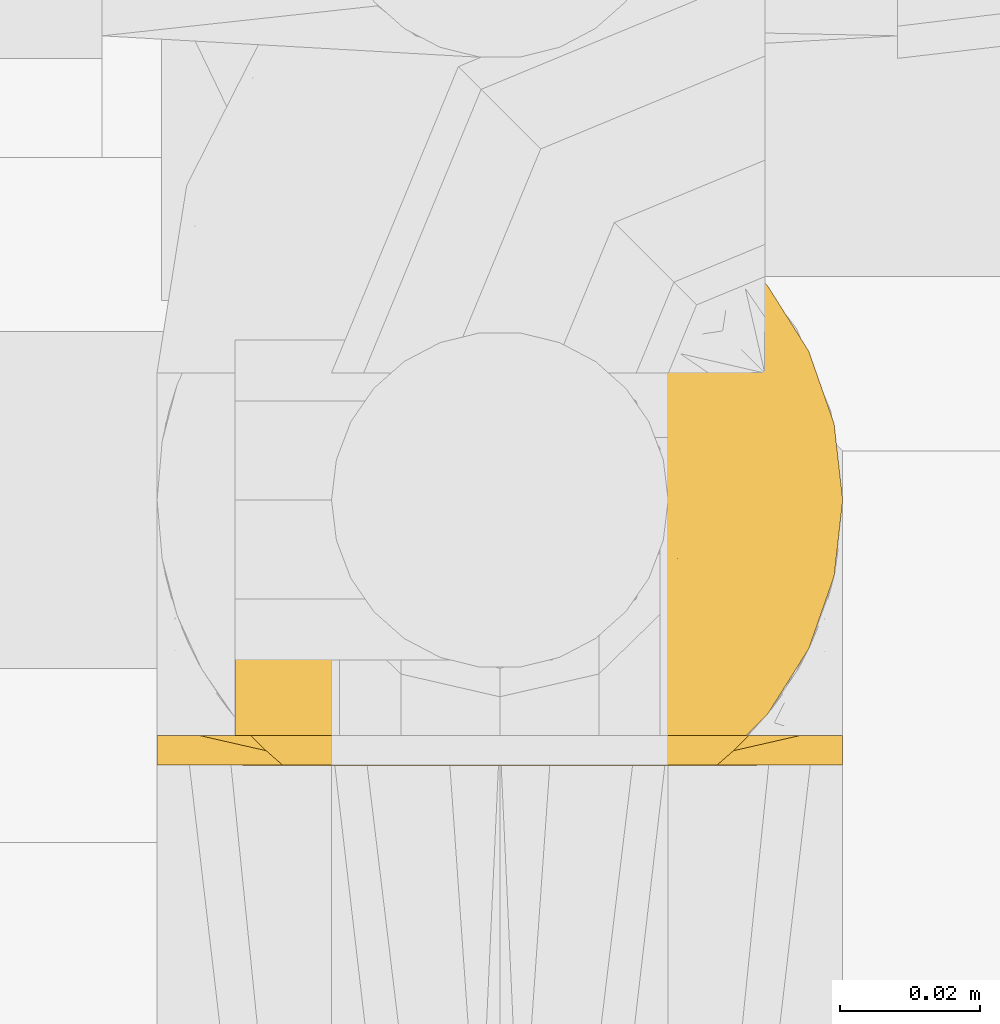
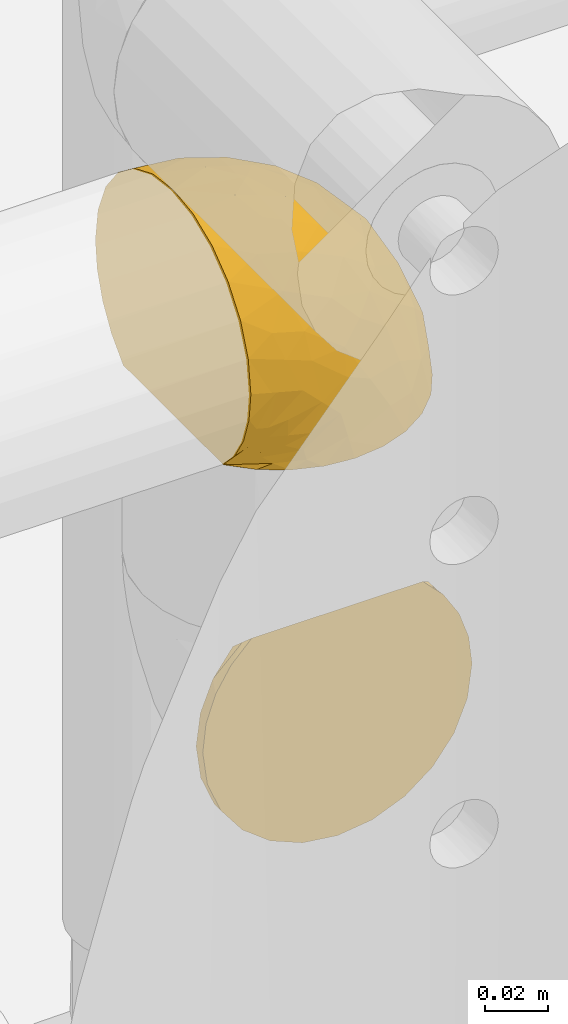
# One storey, part 36 of 94: 2 coverings.
"""IFC2X3 building model written with IfcOpenShell, lengths in millimetres."""

from ifc_helpers import new_model, entity, si_unit, converted_unit, derived_unit, direction, frame, origin, place, context, subcontext, project, spatial, faceted_brep, material, element, save


model = new_model("IFC2X3")

# Units and contexts
model_context = context("Model", 3, precision=0.01, world=origin(), true_north=direction((6.123031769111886e-17, 1.0)))
body_context = subcontext(model_context, "Body", "Model", "MODEL_VIEW")
ifc_project = project(units=[si_unit("LENGTHUNIT", "METRE", prefix="MILLI"), si_unit("AREAUNIT", "SQUARE_METRE"), si_unit("VOLUMEUNIT", "CUBIC_METRE"), converted_unit("PLANEANGLEUNIT", "DEGREE", entity("IfcRatioMeasure", 0.017453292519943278), si_unit("PLANEANGLEUNIT", "RADIAN"), dimensions=[0, 0, 0, 0, 0, 0, 0]), si_unit("MASSUNIT", "GRAM", prefix="KILO"), derived_unit("MASSDENSITYUNIT", [(si_unit("MASSUNIT", "GRAM", prefix="KILO"), 1), (si_unit("LENGTHUNIT", "METRE"), -3)]), derived_unit("IONCONCENTRATIONUNIT", [(si_unit("MASSUNIT", "GRAM", prefix="KILO"), 1), (si_unit("LENGTHUNIT", "METRE"), -3)]), derived_unit("MOMENTOFINERTIAUNIT", [(si_unit("LENGTHUNIT", "METRE"), 4)]), si_unit("TIMEUNIT", "SECOND"), si_unit("FREQUENCYUNIT", "HERTZ"), si_unit("THERMODYNAMICTEMPERATUREUNIT", "DEGREE_CELSIUS"), derived_unit("THERMALTRANSMITTANCEUNIT", [(si_unit("MASSUNIT", "GRAM", prefix="KILO"), 1), (si_unit("THERMODYNAMICTEMPERATUREUNIT", "KELVIN"), -1), (si_unit("TIMEUNIT", "SECOND"), -3)]), derived_unit("THERMALCONDUCTANCEUNIT", [(si_unit("MASSUNIT", "GRAM", prefix="KILO"), 1), (si_unit("THERMODYNAMICTEMPERATUREUNIT", "KELVIN"), -1), (si_unit("TIMEUNIT", "SECOND"), -3), (si_unit("LENGTHUNIT", "METRE"), 1)]), derived_unit("VOLUMETRICFLOWRATEUNIT", [(si_unit("LENGTHUNIT", "METRE"), 3), (si_unit("TIMEUNIT", "SECOND"), -1)]), derived_unit("MASSFLOWRATEUNIT", [(si_unit("MASSUNIT", "GRAM", prefix="KILO"), 1), (si_unit("TIMEUNIT", "SECOND"), -1)]), derived_unit("ROTATIONALFREQUENCYUNIT", [(si_unit("TIMEUNIT", "SECOND"), -1)]), si_unit("ELECTRICCURRENTUNIT", "AMPERE"), si_unit("ELECTRICVOLTAGEUNIT", "VOLT"), si_unit("POWERUNIT", "WATT"), si_unit("FORCEUNIT", "NEWTON", prefix="KILO"), si_unit("ILLUMINANCEUNIT", "LUX"), si_unit("LUMINOUSFLUXUNIT", "LUMEN"), si_unit("LUMINOUSINTENSITYUNIT", "CANDELA"), derived_unit("USERDEFINED", [(si_unit("MASSUNIT", "GRAM", prefix="KILO"), -1), (si_unit("LENGTHUNIT", "METRE"), -2), (si_unit("TIMEUNIT", "SECOND"), 3), (si_unit("LUMINOUSFLUXUNIT", "LUMEN"), 1)]), derived_unit("USERDEFINED", [(si_unit("MASSUNIT", "GRAM", prefix="KILO"), 1), (si_unit("TIMEUNIT", "SECOND"), -3), (si_unit("LENGTHUNIT", "METRE"), 3), (si_unit("ELECTRICCURRENTUNIT", "AMPERE"), -2)]), derived_unit("SOUNDPOWERUNIT", [(si_unit("MASSUNIT", "GRAM", prefix="KILO"), 1), (si_unit("TIMEUNIT", "SECOND"), -3), (si_unit("LENGTHUNIT", "METRE"), 2)]), derived_unit("SOUNDPRESSUREUNIT", [(si_unit("MASSUNIT", "GRAM", prefix="KILO"), 1), (si_unit("LENGTHUNIT", "METRE"), -1), (si_unit("TIMEUNIT", "SECOND"), -2)]), derived_unit("LINEARVELOCITYUNIT", [(si_unit("LENGTHUNIT", "METRE"), 1), (si_unit("TIMEUNIT", "SECOND"), -1)]), si_unit("PRESSUREUNIT", "PASCAL"), derived_unit("USERDEFINED", [(si_unit("MASSUNIT", "GRAM", prefix="KILO"), 1), (si_unit("LENGTHUNIT", "METRE"), -2), (si_unit("TIMEUNIT", "SECOND"), -2)]), derived_unit("LINEARFORCEUNIT", [(si_unit("MASSUNIT", "GRAM", prefix="KILO"), 1), (si_unit("TIMEUNIT", "SECOND"), -2)]), derived_unit("PLANARFORCEUNIT", [(si_unit("MASSUNIT", "GRAM", prefix="KILO"), 1), (si_unit("LENGTHUNIT", "METRE"), -1), (si_unit("TIMEUNIT", "SECOND"), -2)]), derived_unit("SPECIFICHEATCAPACITYUNIT", [(si_unit("THERMODYNAMICTEMPERATUREUNIT", "KELVIN"), -1), (si_unit("LENGTHUNIT", "METRE"), 2), (si_unit("TIMEUNIT", "SECOND"), -2)]), derived_unit("HEATINGVALUEUNIT", [(si_unit("LENGTHUNIT", "METRE"), 2), (si_unit("TIMEUNIT", "SECOND"), -2)]), derived_unit("VAPORPERMEABILITYUNIT", [(si_unit("LENGTHUNIT", "METRE"), -1), (si_unit("TIMEUNIT", "SECOND"), 1)]), derived_unit("DYNAMICVISCOSITYUNIT", [(si_unit("MASSUNIT", "GRAM", prefix="KILO"), 1), (si_unit("TIMEUNIT", "SECOND"), -1), (si_unit("LENGTHUNIT", "METRE"), -1)]), derived_unit("THERMALEXPANSIONCOEFFICIENTUNIT", [(si_unit("THERMODYNAMICTEMPERATUREUNIT", "KELVIN"), -1)]), derived_unit("MODULUSOFELASTICITYUNIT", [(si_unit("MASSUNIT", "GRAM", prefix="KILO"), 1), (si_unit("LENGTHUNIT", "METRE"), -1), (si_unit("TIMEUNIT", "SECOND"), -2)]), derived_unit("ISOTHERMALMOISTURECAPACITYUNIT", [(si_unit("LENGTHUNIT", "METRE"), 3), (si_unit("MASSUNIT", "GRAM", prefix="KILO"), -1)]), derived_unit("MOISTUREDIFFUSIVITYUNIT", [(si_unit("TIMEUNIT", "SECOND"), -1), (si_unit("LENGTHUNIT", "METRE"), 2)])], contexts=[model_context])

# Site, building, storey
site_placement = place(None, origin())
site = spatial("IfcSite", under=ifc_project, at=site_placement, Name="Default", CompositionType="ELEMENT")
building_placement = place(site_placement, origin())
building = spatial("IfcBuilding", under=site, at=building_placement, CompositionType="ELEMENT")
storey_placement = place(building_placement, origin())
storey = spatial("IfcBuildingStorey", under=building, at=storey_placement, Name="Niveau 0", CompositionType="ELEMENT", Elevation=0.0)

# Coverings
ifc_material = material(Name="Isolation - Laine minérale")
covering_1_placement = place(storey_placement, frame((-6323.829732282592, 9224.732406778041, 549.745272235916)))
element("IfcCovering", 1, at=covering_1_placement, inside=storey, material=ifc_material, Name="Isolation des canalisations:Laine minérale", ObjectType="Isolation des canalisations:Laine minérale", PredefinedType="INSULATION", context=body_context, shape_type="Brep", body=[
    faceted_brep([(1.908891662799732, 19.19437336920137, -88.74527223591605), (1.908891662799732, 21.63864226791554, -88.74527223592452), (1.908891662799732, 23.415694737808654, -88.74527223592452), (1.908891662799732, 25.192747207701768, -88.74527223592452), (1.908891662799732, 26.692340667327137, -88.74527223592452), (1.908891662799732, 28.191934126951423, -88.74527223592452), (1.908891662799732, 31.191121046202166, -88.74527223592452), (1.908891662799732, 34.19030796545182, -88.74527223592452), (1.908891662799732, 37.18949488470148, -88.74527223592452), (1.908891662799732, 40.18868180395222, -88.74527223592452), (1.908891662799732, 41.68827526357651, -88.74527223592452), (1.908891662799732, 43.18786872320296, -88.74527223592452), (1.908891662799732, 45.63213762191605, -88.74527223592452), (1.908891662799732, 48.07640652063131, -88.74527223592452), (1.908891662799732, 50.5206754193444, -88.74527223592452), (1.908891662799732, 52.96494431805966, -88.74527223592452), (1.908891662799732, 55.40921321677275, -88.74527223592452), (1.908891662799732, 57.853482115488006, -88.74527223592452), (1.908891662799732, 60.2977510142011, -88.74527223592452), (1.908891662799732, 62.742019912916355, -88.74527223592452), (1.908891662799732, 65.18628881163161, -88.74527223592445), (1.908891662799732, 67.6305577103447, -88.74527223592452), (1.9088916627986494, 70.07482660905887, -88.74527223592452), (1.908891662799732, 72.51909550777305, -88.74527223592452), (1.908891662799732, 74.96336440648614, -88.74527223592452), (1.908891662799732, 77.4076333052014, -88.74527223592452), (1.9088916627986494, 79.85190220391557, -88.74527223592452), (1.908891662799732, 82.29617110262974, -88.74527223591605), (9.648191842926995, 89.71827412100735, -88.74527223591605), (18.809406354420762, 95.28368576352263, -88.74527223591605), (28.956643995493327, 98.73008326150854, -88.74527223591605), (39.59527223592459, 99.89527223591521, -88.74527223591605), (50.53764083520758, 98.66173151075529, -88.74527223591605), (60.92840990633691, 95.02415814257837, -88.74527223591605), (70.2472924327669, 89.16631019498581, -88.74527223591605), (78.02799613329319, 81.38263886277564, -88.74527223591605), (83.88131648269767, 72.06354573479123, -88.74527223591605), (87.51440414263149, 61.67593083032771, -88.74527223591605), (88.74527223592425, 50.74527223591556, -88.74527223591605), (87.51173151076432, 39.80290363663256, -88.74527223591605), (83.8741581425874, 29.41213456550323, -88.74527223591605), (78.01631019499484, 20.093252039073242, -88.74527223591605), (70.23263886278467, 12.31254833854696, -88.74527223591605), (60.913545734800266, 6.459227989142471, -88.74527223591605), (50.52593083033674, 2.826140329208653, -88.74527223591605), (39.59527223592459, 1.5952722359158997, -88.74527223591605), (28.93618624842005, 2.765001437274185, -88.74527223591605), (18.787971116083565, 6.216868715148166, -88.74527223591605), (9.631578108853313, 11.785042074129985, -88.74527223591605), (1.5952722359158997, 19.19437336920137, -88.43165280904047), (1.5952722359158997, 11.777056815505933, -80.69858068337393), (1.5952722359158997, 6.211862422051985, -71.54185633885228), (1.5952722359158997, 2.7632985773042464, -61.39669016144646), (1.5952722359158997, 1.5952722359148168, -50.74527223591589), (1.5952722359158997, 3.270017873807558, -38.024316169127), (1.5952722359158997, 8.18012363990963, -26.17027223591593), (1.5952722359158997, 15.990973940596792, -15.99097394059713), (1.5952722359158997, 26.17027223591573, -8.180123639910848), (1.5952722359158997, 38.02431616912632, -3.270017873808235), (1.5952722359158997, 50.74527223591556, -1.5952722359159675), (1.5952722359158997, 63.466228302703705, -3.270017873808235), (1.5952722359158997, 75.32027223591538, -8.180123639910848), (1.5952722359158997, 85.49957053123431, -15.99097394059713), (1.5952722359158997, 93.3104208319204, -26.17027223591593), (1.5952722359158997, 98.22052659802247, -38.024316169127), (1.5952722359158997, 99.89527223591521, -50.74527223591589), (1.5952722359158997, 98.72724589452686, -61.39669016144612), (1.5952722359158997, 95.27868204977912, -71.54185633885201), (1.5952722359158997, 89.71348765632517, -80.69858068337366), (1.5952722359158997, 82.29617110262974, -88.43165280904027), (1.5952722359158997, 79.85190220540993, -88.43165280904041), (1.5952722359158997, 78.3523087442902, -88.43165280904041), (1.5952722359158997, 76.3803775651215, -88.43165280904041), (1.5952722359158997, 74.40844638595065, -88.43165280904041), (1.5952722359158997, 72.43651520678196, -88.43165280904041), (1.5952722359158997, 70.46458402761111, -88.43165280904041), (1.5952722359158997, 68.49265284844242, -88.43165280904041), (1.5952722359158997, 66.52072166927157, -88.43165280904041), (1.5952722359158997, 64.54879049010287, -88.43165280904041), (1.5952722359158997, 62.57685931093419, -88.43165280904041), (1.5952722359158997, 60.60492813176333, -88.43165280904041), (1.5952722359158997, 58.632996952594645, -88.43165280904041), (1.5952722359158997, 56.661065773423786, -88.43165280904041), (1.5952722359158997, 54.6891345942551, -88.43165280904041), (1.5952722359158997, 52.71720341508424, -88.43165280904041), (1.5952722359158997, 50.74527223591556, -88.43165280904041), (1.5952722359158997, 48.773341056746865, -88.43165280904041), (1.5952722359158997, 46.80140987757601, -88.43165280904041), (1.5952722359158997, 44.82947869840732, -88.43165280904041), (1.5952722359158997, 42.85754751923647, -88.43165280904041), (1.5952722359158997, 40.88561634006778, -88.43165280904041), (1.5952722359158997, 38.913685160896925, -88.43165280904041), (1.5952722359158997, 36.94175398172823, -88.43165280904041), (1.5952722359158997, 34.96982280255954, -88.43165280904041), (1.5952722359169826, 31.97063588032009, -88.43165280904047), (1.5952722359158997, 28.971448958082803, -88.43165280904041), (1.5952722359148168, 26.5271800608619, -88.43165280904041), (1.5952722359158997, 24.082911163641, -88.43165280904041), (1.5952722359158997, 21.638642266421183, -88.43165280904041), (1.809643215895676, 53.75333970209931, -88.51635690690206), (1.8184361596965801, 51.832765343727, -88.52492022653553), (1.8193226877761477, 61.47290163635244, -88.52582169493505), (1.8127644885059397, 63.56282540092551, -88.51932032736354), (1.7996191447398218, 48.00102702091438, -88.50736577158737), (1.8054799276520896, 77.24999397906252, -88.51252801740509), (1.8492387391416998, 80.69913834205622, -88.56126636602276), (1.8224415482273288, 42.43807145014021, -88.52905186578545), (1.817034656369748, 22.860776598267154, -88.52350980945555), (1.8150629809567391, 24.70021643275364, -88.5215555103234), (1.824011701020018, 71.3700895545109, -88.53071361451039), (1.8138012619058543, 73.40383885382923, -88.52032288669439), (1.8358544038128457, 44.410002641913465, -88.54408236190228), (1.810897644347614, 37.92771907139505, -88.51753811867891), (1.8073683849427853, 39.81308540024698, -88.51424763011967), (1.824691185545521, 35.95578792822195, -88.53144031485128), (1.8114022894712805, 49.75930651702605, -88.51801699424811), (1.8146264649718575, 21.02757498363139, -88.52112749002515), (1.8038954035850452, 55.67510065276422, -88.51110665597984), (1.8030656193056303, 67.50668767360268, -88.51037001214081), (1.8078125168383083, 65.61454699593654, -88.51465616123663), (1.8062814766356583, 34.10458092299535, -88.51325446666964), (1.8068444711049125, 57.55217518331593, -88.51376773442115), (1.8170346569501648, 79.10210557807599, -88.52350981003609), (1.8056127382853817, 75.39441218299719, -88.51264803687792), (1.8170346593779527, 82.29617110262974, -88.52350981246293), (1.845664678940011, 82.29617110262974, -88.59262879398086), (1.8742946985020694, 82.29617110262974, -88.66174777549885), (1.8170346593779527, 19.19437336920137, -88.52350981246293), (1.7479156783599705, 19.19437336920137, -88.49487979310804), (1.6787966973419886, 19.19437336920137, -88.46624977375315), (1.8305380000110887, 32.212157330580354, -88.53789054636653), (1.8101196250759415, 69.43559223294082, -88.51680397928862), (1.8180768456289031, 46.24828797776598, -88.52455691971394), (1.8158402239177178, 59.49061335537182, -88.52232177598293), (1.8347511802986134, 29.41925201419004, -88.54277043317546), (1.8131030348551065, 27.44213716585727, -88.51964668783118), (1.6787966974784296, 82.29617110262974, -88.46624977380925), (1.7479156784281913, 82.29617110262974, -88.494879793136), (1.8742946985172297, 19.19437336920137, -88.66174777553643), (1.8456646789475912, 19.19437336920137, -88.59262879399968), (5.119742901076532, 4.210283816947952, -66.8453249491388), (4.404433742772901, 8.744179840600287, -76.59278810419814), (9.262466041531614, 4.210283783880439, -67.93076460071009), (7.207652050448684, 9.955583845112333, -79.77802179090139), (11.095272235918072, 1.5952722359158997, -53.290789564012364), (9.051642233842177, 1.5952722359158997, -52.74320055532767), (34.50423757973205, 1.5952722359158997, -69.74527223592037), (23.94501445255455, 2.93549782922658, -74.32039473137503), (22.40014043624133, 4.213452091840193, -81.07886680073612), (20.595272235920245, 1.5952722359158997, -55.83630689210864), (9.666760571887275, 9.405305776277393, -80.67264697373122), (10.551623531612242, 9.963487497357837, -83.13763204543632), (16.01945088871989, 2.9356418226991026, -66.39579772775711), (23.485838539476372, 4.213452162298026, -85.22115378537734), (13.737180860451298, 8.750654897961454, -85.93765126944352), (10.691425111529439, 5.690627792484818, -72.79903813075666), (37.59734395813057, 1.5952722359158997, -81.28890239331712), (37.049754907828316, 1.5952722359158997, -79.24527223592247), (16.728859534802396, 4.482619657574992, -73.61168502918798), (27.549754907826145, 1.5952722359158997, -62.79078956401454), (16.460659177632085, 5.766057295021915, -78.2689853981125), (15.011407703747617, 2.6117250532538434, -42.71659351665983), (24.42980261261, 2.657531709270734, -46.339103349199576), (36.49293031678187, 11.131578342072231, -31.440845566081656), (31.204032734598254, 20.82464790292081, -17.672829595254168), (19.174422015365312, 11.7519547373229, -23.1389879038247), (23.335091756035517, 5.336592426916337, -36.260702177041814), (11.460031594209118, 5.336592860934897, -32.79943692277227), (52.82075697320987, 50.74527223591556, -18.239441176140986), (28.52610329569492, 50.74527223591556, -5.860696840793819), (36.46534309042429, 40.339739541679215, -10.09253095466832), (64.55560047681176, 9.124243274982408, -76.48910815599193), (54.096361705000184, 4.351045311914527, -75.17525932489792), (60.7776621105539, 32.64695426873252, -29.56288601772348), (59.569862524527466, 23.768909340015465, -34.954708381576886), (75.0483217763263, 35.61531809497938, -46.443169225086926), (19.026686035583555, 41.696133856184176, -4.214063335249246), (43.09951705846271, 30.50981773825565, -17.108860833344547), (46.8366514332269, 21.748430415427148, -25.59315874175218), (15.050691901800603, 20.824647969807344, -12.936813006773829), (23.237814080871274, 31.93638275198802, -8.19337466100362), (53.24134352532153, 15.984346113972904, -37.51142897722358), (45.825367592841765, 9.509703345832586, -41.46157905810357), (56.63576814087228, 11.405769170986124, -49.733323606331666), (46.288849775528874, 3.7235321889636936, -61.570591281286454), (60.29646320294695, 9.124242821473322, -62.89209880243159), (72.02820629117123, 15.984347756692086, -70.54017915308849), (84.47984763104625, 50.74527223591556, -61.81444117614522), (83.29913826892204, 34.50535109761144, -67.62492254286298), (64.72607481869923, 18.535934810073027, -48.02305876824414), (74.45362859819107, 24.588194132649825, -56.65671676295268), (79.74013519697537, 24.588193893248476, -73.5335710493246), (51.83676030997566, 39.07585882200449, -19.26196392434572), (64.99536385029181, 42.346184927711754, -30.008052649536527), (37.17704034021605, 2.5632520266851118, -56.967223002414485), (72.10110329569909, 50.74527223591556, -37.51978749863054), (37.64584570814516, 4.722449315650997, -46.87511479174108), (32.164652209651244, 69.5541610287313, -11.140369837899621), (18.639631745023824, 59.5851078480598, -4.095656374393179), (35.766211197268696, 59.865425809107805, -9.50247429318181), (47.842493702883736, 66.13789702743, -17.812384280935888), (15.27818958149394, 69.55416221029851, -6.4665656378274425), (65.81540325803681, 85.49332197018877, -54.54188370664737), (64.55420181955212, 78.98858976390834, -42.32008170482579), (74.46231326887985, 76.88743080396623, -56.65317707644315), (53.25075234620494, 85.49294527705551, -37.502095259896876), (54.62718238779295, 78.28666517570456, -30.584563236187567), (54.10903567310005, 97.13479117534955, -75.17052823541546), (19.802502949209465, 98.95303587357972, -44.78912737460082), (20.595272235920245, 99.89527223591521, -55.83630689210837), (11.095272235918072, 99.89527223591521, -53.290789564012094), (83.30424504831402, 66.97173870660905, -67.62586672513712), (21.09968330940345, 80.66589652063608, -14.26340359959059), (60.31003237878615, 92.35692696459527, -62.88589281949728), (64.57029925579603, 92.35692651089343, -76.486535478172), (13.465140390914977, 89.73858944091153, -21.869885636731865), (16.335810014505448, 96.15395178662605, -33.88211097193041), (41.93007422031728, 79.62483877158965, -22.251999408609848), (27.71501397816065, 89.7385902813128, -26.04782376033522), (59.119767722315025, 59.508159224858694, -24.3292880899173), (60.78019907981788, 68.8345286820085, -29.560349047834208), (10.513874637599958, 99.01263503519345, -42.321432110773), (79.74926997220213, 76.887431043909, -73.53143463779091), (75.05329716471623, 65.85652255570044, -46.439690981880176), (72.04103767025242, 85.49294363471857, -70.53686254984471), (46.290673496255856, 97.76388503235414, -61.55381762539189), (34.50423757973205, 99.89527223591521, -69.74527223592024), (36.10518198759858, 98.78930951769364, -54.85547791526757), (27.549754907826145, 99.89527223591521, -62.79078956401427), (37.59734395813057, 99.89527223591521, -81.28890239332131), (37.049754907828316, 99.89527223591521, -79.24527223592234), (41.92842909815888, 91.50386042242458, -37.177632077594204), (26.19749743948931, 96.42683125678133, -38.287459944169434), (50.23414181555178, 93.1499194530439, -48.93950707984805), (27.449810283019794, 99.08337182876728, -49.6193224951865), (42.66776613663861, 86.09107557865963, -29.42376899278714), (34.950986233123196, 96.67816905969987, -44.39993285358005), (9.262466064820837, 97.28026029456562, -67.93076584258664), (12.074879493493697, 95.72662397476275, -73.8762902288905), (16.019815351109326, 98.5546584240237, -66.3972519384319), (5.119743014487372, 97.28026045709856, -66.8453255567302), (4.404433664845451, 92.74636428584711, -76.59278866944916), (7.207972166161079, 91.53641117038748, -79.77567656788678), (7.658564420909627, 90.1127562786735, -82.68391989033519), (16.72348065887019, 97.0051951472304, -73.61706313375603), (10.58277305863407, 91.54965419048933, -83.12402653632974), (22.4220908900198, 97.2842704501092, -81.07735934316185), (23.507196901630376, 97.28427059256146, -85.22095110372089), (13.756054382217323, 92.7514749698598, -85.93466595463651), (23.942836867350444, 98.55441347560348, -74.32191718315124), (17.55671847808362, 95.80583125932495, -79.64839749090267)], [[[0, 1, 2, 3, 4, 5, 6, 7, 8, 9, 10, 11, 12, 13, 14, 15, 16, 17, 18, 19, 20, 21, 22, 23, 24, 25, 26, 27, 28, 29, 30, 31, 32, 33, 34, 35, 36, 37, 38, 39, 40, 41, 42, 43, 44, 45, 46, 47, 48]], [[49, 50, 51, 52, 53, 54, 55, 56, 57, 58, 59, 60, 61, 62, 63, 64, 65, 66, 67, 68, 69, 70, 71, 72, 73, 74, 75, 76, 77, 78, 79, 80, 81, 82, 83, 84, 85, 86, 87, 88, 89, 90, 91, 92, 93, 94, 95, 96, 97, 98]], [[99, 100, 84]], [[101, 102, 19]], [[86, 103, 87]], [[72, 71, 104]], [[105, 70, 69]], [[11, 10, 106]], [[2, 107, 108]], [[109, 74, 110]], [[12, 11, 111]], [[9, 112, 113]], [[108, 97, 96]], [[114, 93, 92]], [[103, 86, 115]], [[97, 107, 98]], [[107, 1, 116]], [[79, 102, 101]], [[99, 117, 16]], [[77, 118, 119]], [[120, 93, 114]], [[112, 91, 113]], [[89, 111, 106]], [[24, 23, 110]], [[107, 97, 108]], [[16, 117, 121]], [[92, 91, 112]], [[21, 119, 118]], [[85, 115, 86]], [[70, 105, 122]], [[72, 123, 73]], [[105, 124, 125, 126, 27]], [[116, 1, 0]], [[122, 71, 70]], [[25, 122, 26]], [[116, 127, 128, 129, 49]], [[110, 123, 24]], [[26, 122, 105]], [[120, 7, 130]], [[8, 114, 112]], [[114, 8, 7]], [[104, 123, 72]], [[92, 112, 114]], [[104, 122, 25]], [[8, 112, 9]], [[110, 73, 123]], [[20, 119, 21]], [[24, 123, 25]], [[75, 74, 109]], [[131, 76, 75]], [[118, 131, 21]], [[109, 110, 23]], [[109, 23, 22]], [[74, 73, 110]], [[123, 104, 25]], [[122, 104, 71]], [[10, 9, 113]], [[113, 90, 106]], [[88, 87, 132]], [[113, 106, 10]], [[77, 76, 118]], [[132, 111, 88]], [[106, 111, 11]], [[132, 12, 111]], [[88, 111, 89]], [[89, 106, 90]], [[113, 91, 90]], [[131, 118, 76]], [[22, 21, 131]], [[119, 20, 102]], [[131, 109, 22]], [[109, 131, 75]], [[79, 78, 102]], [[78, 119, 102]], [[78, 77, 119]], [[121, 81, 133]], [[20, 19, 102]], [[17, 121, 133]], [[80, 79, 101]], [[18, 101, 19]], [[132, 13, 12]], [[81, 80, 133]], [[13, 103, 115]], [[14, 13, 115]], [[87, 103, 132]], [[100, 115, 85]], [[15, 14, 100]], [[115, 100, 14]], [[16, 15, 99]], [[117, 82, 121]], [[100, 85, 84]], [[99, 83, 117]], [[82, 117, 83]], [[17, 16, 121]], [[83, 99, 84]], [[100, 99, 15]], [[18, 17, 133]], [[121, 82, 81]], [[133, 101, 18]], [[101, 133, 80]], [[134, 95, 94]], [[7, 120, 114]], [[132, 103, 13]], [[120, 94, 93]], [[94, 120, 130]], [[98, 107, 116]], [[108, 4, 3, 2]], [[5, 135, 134]], [[4, 135, 5]], [[134, 135, 95]], [[108, 96, 135]], [[108, 135, 4]], [[135, 96, 95]], [[134, 6, 5]], [[130, 6, 134]], [[26, 105, 27]], [[105, 69, 136, 137, 124]], [[98, 116, 49]], [[116, 0, 138, 139, 127]], [[2, 1, 107]], [[94, 130, 134]], [[6, 130, 7]], [[140, 141, 142]], [[143, 129, 128, 127]], [[52, 144, 145, 53]], [[146, 147, 148]], [[142, 149, 144]], [[150, 127, 151]], [[51, 140, 52]], [[142, 152, 149]], [[52, 140, 144]], [[129, 143, 141]], [[47, 46, 153]], [[148, 151, 154]], [[155, 141, 143]], [[151, 138, 154]], [[47, 153, 154]], [[0, 48, 138]], [[46, 45, 156, 157]], [[152, 155, 158]], [[159, 158, 147]], [[157, 148, 153]], [[47, 154, 48]], [[50, 49, 129]], [[50, 129, 141]], [[141, 51, 50]], [[160, 148, 147]], [[146, 148, 157]], [[138, 48, 154]], [[150, 158, 155]], [[151, 127, 139, 138]], [[141, 140, 51]], [[144, 140, 142]], [[157, 153, 46]], [[154, 153, 148]], [[149, 152, 159]], [[160, 147, 158]], [[147, 146, 159]], [[155, 152, 142]], [[159, 152, 158]], [[127, 150, 143]], [[160, 150, 151]], [[150, 160, 158]], [[148, 160, 151]], [[141, 155, 142]], [[155, 143, 150]], [[156, 45, 44]], [[161, 149, 162]], [[163, 164, 165]], [[166, 167, 161]], [[168, 169, 170]], [[55, 165, 56]], [[171, 172, 43]], [[173, 174, 175]], [[58, 176, 59]], [[173, 177, 178]], [[179, 57, 56]], [[55, 167, 165]], [[170, 180, 177]], [[57, 179, 180]], [[167, 55, 54]], [[181, 182, 183]], [[184, 146, 172]], [[172, 185, 184]], [[186, 185, 171]], [[186, 42, 41]], [[172, 146, 157, 156]], [[172, 44, 43]], [[173, 178, 174]], [[39, 187, 188]], [[189, 186, 190]], [[191, 186, 41]], [[175, 190, 188]], [[168, 192, 193]], [[189, 190, 174]], [[57, 180, 58]], [[41, 40, 191]], [[188, 40, 39]], [[39, 38, 187]], [[190, 191, 188]], [[159, 194, 162]], [[175, 187, 195]], [[177, 180, 164]], [[43, 42, 171]], [[176, 180, 170]], [[156, 44, 172]], [[163, 165, 166]], [[179, 165, 164]], [[54, 53, 145]], [[185, 189, 183]], [[184, 196, 194]], [[188, 191, 40]], [[186, 191, 190]], [[186, 171, 42]], [[172, 171, 185]], [[187, 175, 188]], [[193, 175, 195]], [[196, 163, 166]], [[163, 181, 178]], [[162, 166, 161]], [[184, 185, 183]], [[178, 177, 164]], [[177, 192, 170]], [[177, 173, 192]], [[176, 170, 169]], [[59, 176, 169]], [[58, 180, 176]], [[193, 192, 173]], [[168, 170, 192]], [[175, 193, 173]], [[168, 193, 195]], [[163, 178, 164]], [[184, 194, 146]], [[178, 181, 174]], [[189, 174, 181]], [[175, 174, 190]], [[183, 189, 181]], [[186, 189, 185]], [[182, 181, 163]], [[183, 182, 184]], [[163, 196, 182]], [[184, 182, 196]], [[165, 179, 56]], [[180, 179, 164]], [[161, 54, 145]], [[165, 167, 166]], [[54, 161, 167]], [[161, 145, 144, 149]], [[159, 162, 149]], [[196, 166, 162]], [[162, 194, 196]], [[146, 194, 159]], [[197, 198, 199]], [[59, 169, 198]], [[197, 199, 200]], [[198, 197, 201]], [[202, 203, 204]], [[61, 60, 201]], [[205, 206, 203]], [[33, 32, 207]], [[208, 209, 210]], [[187, 37, 211]], [[201, 212, 61]], [[213, 214, 207]], [[62, 215, 63]], [[63, 215, 216]], [[36, 211, 37]], [[217, 218, 212]], [[219, 220, 200]], [[216, 208, 221]], [[36, 35, 222]], [[63, 216, 64]], [[62, 61, 212]], [[211, 36, 222]], [[38, 37, 187]], [[217, 197, 200]], [[203, 223, 204]], [[35, 34, 224]], [[225, 213, 207]], [[204, 222, 224]], [[34, 33, 214]], [[204, 224, 202]], [[207, 226, 225]], [[227, 226, 228]], [[223, 211, 204]], [[214, 224, 34]], [[202, 224, 213]], [[32, 31, 229]], [[207, 229, 230, 226]], [[211, 223, 187]], [[218, 231, 232]], [[32, 229, 207]], [[205, 233, 231]], [[233, 213, 225]], [[217, 212, 197]], [[215, 212, 218]], [[228, 234, 227]], [[233, 205, 202]], [[208, 234, 209]], [[64, 221, 65]], [[235, 205, 231]], [[207, 214, 33]], [[224, 214, 213]], [[224, 222, 35]], [[211, 222, 204]], [[219, 223, 220]], [[187, 223, 195]], [[227, 233, 225]], [[234, 228, 209]], [[231, 233, 236]], [[221, 208, 210]], [[232, 208, 216]], [[65, 221, 210]], [[216, 221, 64]], [[233, 202, 213]], [[203, 202, 205]], [[205, 235, 206]], [[223, 203, 220]], [[200, 206, 217]], [[220, 203, 206]], [[232, 231, 236]], [[235, 218, 217]], [[212, 215, 62]], [[216, 215, 218]], [[218, 232, 216]], [[234, 232, 236]], [[232, 234, 208]], [[234, 236, 227]], [[233, 227, 236]], [[226, 227, 225]], [[198, 201, 60]], [[212, 201, 197]], [[59, 198, 60]], [[198, 169, 199]], [[169, 168, 199]], [[219, 200, 199]], [[219, 199, 168]], [[200, 220, 206]], [[168, 195, 219]], [[223, 219, 195]], [[218, 235, 231]], [[206, 235, 217]], [[66, 65, 210]], [[209, 237, 210]], [[238, 237, 239]], [[67, 240, 241]], [[242, 136, 241]], [[243, 137, 242]], [[243, 244, 245]], [[66, 240, 67]], [[136, 69, 68]], [[136, 68, 241]], [[246, 226, 230]], [[67, 241, 68]], [[210, 237, 240]], [[29, 247, 30]], [[209, 239, 237]], [[246, 247, 248]], [[30, 247, 230]], [[249, 250, 244]], [[239, 228, 244]], [[226, 246, 249]], [[250, 248, 245]], [[28, 27, 126]], [[237, 242, 241]], [[248, 29, 28]], [[28, 126, 248]], [[30, 230, 229, 31]], [[245, 126, 125]], [[126, 245, 248]], [[243, 124, 137]], [[210, 240, 66]], [[241, 240, 237]], [[248, 247, 29]], [[230, 247, 246]], [[226, 249, 228]], [[238, 239, 244]], [[239, 209, 228]], [[250, 249, 246]], [[228, 249, 244]], [[243, 242, 238]], [[136, 242, 137]], [[124, 243, 125]], [[125, 243, 245]], [[243, 238, 244]], [[237, 238, 242]], [[248, 250, 246]], [[244, 250, 245]]]),
])
covering_2_placement = place(storey_placement, frame((-6334.959732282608, 9235.911724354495, 397.43919171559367)))
element("IfcCovering", 2, at=covering_2_placement, inside=storey, material=ifc_material, Name="Isolation des canalisations:Laine minérale", ObjectType="Isolation des canalisations:Laine minérale", PredefinedType="INSULATION", context=body_context, shape_type="Brep", body=[
    faceted_brep([(1.5952722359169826, 5.7731347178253, -39.569191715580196), (3.1543822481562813, 5.782615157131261, -27.29046067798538), (7.7322601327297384, 5.791493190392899, -15.79194475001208), (15.038249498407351, 5.79920610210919, -5.802453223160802), (86.41229497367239, 5.799206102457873, -5.802453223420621), (93.71828433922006, 5.791493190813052, -15.79194475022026), (98.29616222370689, 5.782615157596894, -27.290460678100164), (99.85527223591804, 5.7731347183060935, -39.56919171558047), (98.18120808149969, 5.763316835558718, -52.284967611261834), (93.27310032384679, 5.754168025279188, -64.13418439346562), (85.46542839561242, 5.746311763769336, -74.30933752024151), (75.29027223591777, 5.740283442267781, -82.11700712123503), (63.441051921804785, 5.736493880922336, -87.0251134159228), (50.72527223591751, 5.735201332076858, -88.69917707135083), (38.00949255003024, 5.7364938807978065, -87.02511341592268), (26.160272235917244, 5.740283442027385, -82.11700712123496), (15.985116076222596, 5.746311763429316, -74.3093375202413), (8.177444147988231, 5.754168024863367, -64.13418439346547), (3.269336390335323, 5.763316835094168, -52.284967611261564), (19.54861147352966, 1.5952722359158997, -1.5952722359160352), (11.991196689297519, 1.5892902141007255, -9.342976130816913), (6.31328370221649, 1.5821752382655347, -18.558042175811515), (2.791080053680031, 1.574273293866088, -28.792362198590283), (1.595272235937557, 1.5659549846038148, -39.565943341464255), (3.2693363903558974, 1.5561371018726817, -52.281719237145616), (8.177444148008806, 1.5469882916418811, -64.13093601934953), (15.985116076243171, 1.53913203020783, -74.30608914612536), (26.16027223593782, 1.5331037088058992, -82.11375874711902), (38.00949255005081, 1.5293141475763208, -87.02186504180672), (50.725272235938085, 1.528021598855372, -88.69592869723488), (63.441051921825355, 1.5293141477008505, -87.02186504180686), (75.29027223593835, 1.5331037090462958, -82.11375874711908), (85.465428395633, 1.5391320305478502, -74.30608914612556), (93.27310032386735, 1.546988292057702, -64.13093601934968), (98.18120808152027, 1.5561371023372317, -52.281719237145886), (99.85527223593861, 1.5659549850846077, -39.565943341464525), (98.65946441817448, 1.5742732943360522, -28.792362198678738), (95.1372607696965, 1.5821752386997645, -18.558042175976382), (89.45934778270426, 1.589290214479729, -9.3429761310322), (81.90193299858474, 1.5952722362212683, -1.5952722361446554), (17.22741696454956, 3.6264138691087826, -3.6279827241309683), (84.22312750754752, 3.626413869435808, -3.62798272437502)], [[[0, 1, 2, 3, 4, 5, 6, 7, 8, 9, 10, 11, 12, 13, 14, 15, 16, 17, 18]], [[19, 20, 21, 22, 23, 24, 25, 26, 27, 28, 29, 30, 31, 32, 33, 34, 35, 36, 37, 38, 39]], [[7, 35, 34, 8]], [[8, 34, 33, 9]], [[9, 33, 32, 10]], [[11, 31, 30, 12]], [[12, 30, 29, 13]], [[10, 32, 31, 11]], [[13, 29, 28, 14]], [[14, 28, 27, 15]], [[15, 27, 26, 16]], [[17, 25, 24, 18]], [[18, 24, 23, 0]], [[16, 26, 25, 17]], [[23, 22, 0]], [[22, 1, 0]], [[1, 22, 21]], [[1, 21, 2]], [[20, 19, 40]], [[2, 40, 3]], [[40, 2, 20]], [[20, 2, 21]], [[39, 38, 41]], [[41, 5, 4]], [[5, 41, 38]], [[38, 37, 5]], [[37, 36, 6]], [[36, 7, 6]], [[7, 36, 35]], [[37, 6, 5]], [[41, 4, 3, 40, 19, 39]]]),
])

save(model, "model.ifc")
